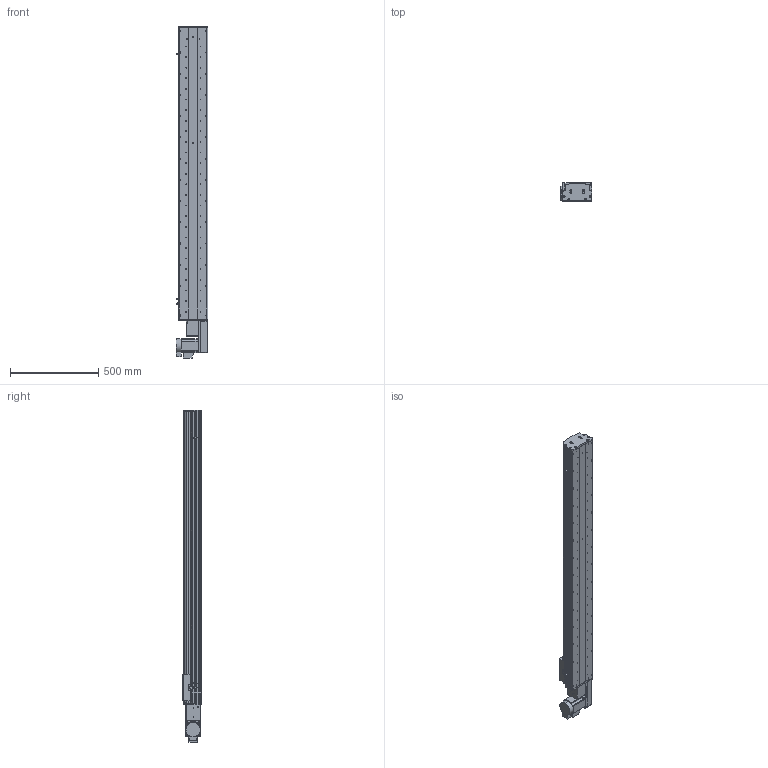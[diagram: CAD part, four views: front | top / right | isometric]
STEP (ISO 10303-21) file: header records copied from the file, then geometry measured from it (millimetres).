
FILE_DESCRIPTION (( 'STEP AP214' ), '1' );
FILE_NAME ('KSD165B-S1400-MRB-CM .STEP', '2017-10-16T09:06:54', ( '微软用户' ), ( '微软中国' ), 'SwSTEP 2.0', 'SolidWorks 2014', '' );
FILE_SCHEMA (( 'AUTOMOTIVE_DESIGN' ));
Length unit declared in the file: millimetre
Products named in the file (17): 覜茼え68遵圉猾敕; KSD165模组-同步带-防撞垫2; KSD165模组同步带-防撞垫1; KSD165耀郪-ヶ傷啣1-肮祭湍; KSD165模组-后端板1-同步带; KSD165模组-同步带滑动座-最新版; KSD165B-S1400-MRB-CM ; HTPA26S5M250-A-H8 750W萇儂蚚; HTPA26S5M250-A-H8 400W萇儂蚚 ; 130宽模组马达安装板连板左右折同步带; 130宽模组保护罩上下左右折-同步带; KSD165模组-同步带防尘盖1-1400行程; KSD165模组同步带底板-1400行程; 拸秶雄ん750W侜督萇儂; 165宽马达安装板同步带右; U倰嫖萇假蚾璃; U倰嫖萇EEㄜSX672
Assembly tree (20 placements, depth 2):
  KSD165B-S1400-MRB-CM 
    KSD165模组-同步带滑动座-最新版
    KSD165模组-后端板1-同步带
    KSD165耀郪-ヶ傷啣1-肮祭湍
    KSD165模组同步带-防撞垫1
    KSD165模组-同步带-防撞垫2
    覜茼え68遵圉猾敕
    U倰嫖萇EEㄜSX672  x3
    U倰嫖萇假蚾璃  x3
    165宽马达安装板同步带右
    拸秶雄ん750W侜督萇儂
    KSD165模组同步带底板-1400行程
    KSD165模组-同步带防尘盖1-1400行程
    130宽模组保护罩上下左右折-同步带
    130宽模组马达安装板连板左右折同步带
    HTPA26S5M250-A-H8 400W萇儂蚚 
    HTPA26S5M250-A-H8 750W萇儂蚚
Bounding box: 178.7 x 104 x 1877.5 mm (x, y, z)
Volume: 9723517.4 mm3; surface area: 2264898.5 mm2
Topology: 21 solids, 21 shells, 2029 faces, 5742 edges, 3752 vertices
Faces by surface type: cylinder 1323, plane 594, cone 112
Entity records: 66572 total; most frequent: CARTESIAN_POINT 13648, DIRECTION 10882, ORIENTED_EDGE 10144, EDGE_CURVE 5072, AXIS2_PLACEMENT_3D 4280, VERTEX_POINT 3344, CIRCLE 2448, VECTOR 2322
